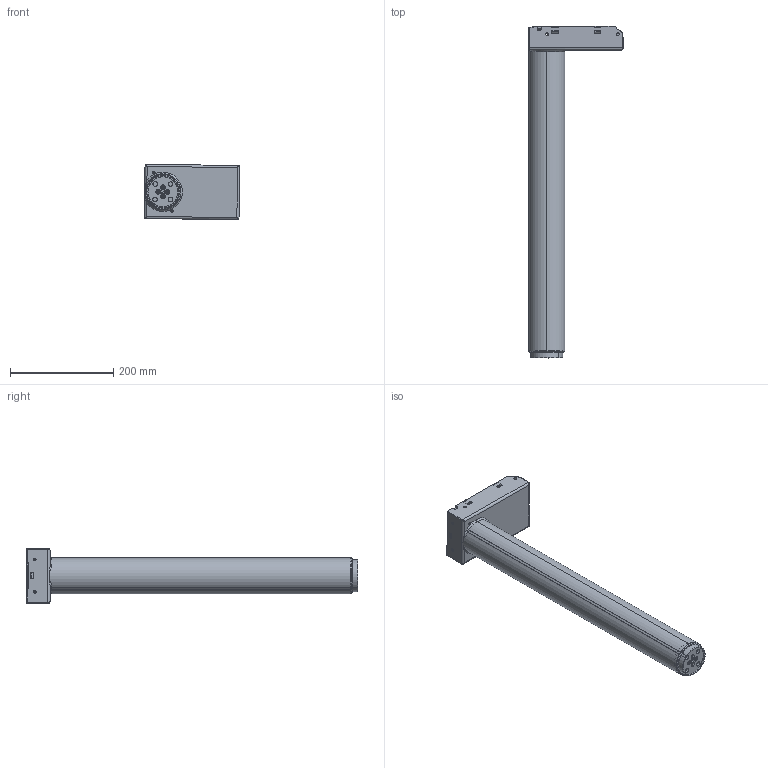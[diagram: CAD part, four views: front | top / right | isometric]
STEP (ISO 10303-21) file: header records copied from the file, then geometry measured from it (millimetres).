
FILE_DESCRIPTION (( 'STEP AP203' ), '1' );
FILE_NAME ('3D_TL14KR.STEP', '2023-12-21T05:59:08', ( '' ), ( '' ), 'SwSTEP 2.0', 'SolidWorks 2015', '' );
FILE_SCHEMA (( 'CONFIG_CONTROL_DESIGN' ));
Length unit declared in the file: millimetre
Products named in the file (1): 3D_TL14KR
Bounding box: 183.66 x 644 x 106.17 mm (x, y, z)
Volume: 653131.3 mm3; surface area: 620846.7 mm2
Topology: 13 solids, 13 shells, 2060 faces, 5268 edges, 3119 vertices
Faces by surface type: cylinder 875, plane 526, bspline 260, torus 163, sphere 124, cone 112
Entity records: 79666 total; most frequent: CARTESIAN_POINT 32306, ORIENTED_EDGE 10298, DIRECTION 9608, EDGE_CURVE 5149, AXIS2_PLACEMENT_3D 3712, VERTEX_POINT 3119, LINE 2184, VECTOR 2184
